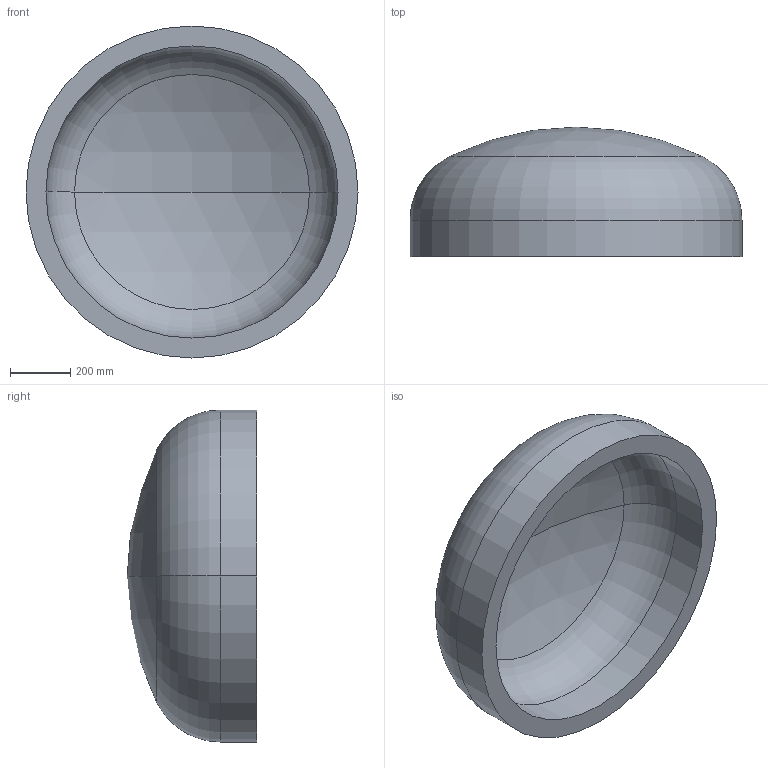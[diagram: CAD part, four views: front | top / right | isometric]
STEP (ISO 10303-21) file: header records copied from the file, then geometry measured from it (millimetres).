
FILE_DESCRIPTION (( 'STEP AP203' ), '1' );
FILE_NAME ('DIN 28013 Korbbogenform_-_Boden DIN 28013 - 1100 x 120 - I - s=66.step', '2016-07-01T09:11:49', ( '' ), ( '' ), 'SwSTEP 2.0', 'SolidWorks 2013', '' );
FILE_SCHEMA (( 'CONFIG_CONTROL_DESIGN' ));
Length unit declared in the file: millimetre
Products named in the file (1): DIN 28013 Korbbogenform_-_Boden DIN 28013 - 1100 x 120 - I - s=66
Bounding box: 1100 x 429.21 x 1100 mm (x, y, z)
Volume: 106258971.5 mm3; surface area: 3443486.2 mm2
Topology: 1 solids, 1 shells, 13 faces, 24 edges, 14 vertices
Faces by surface type: torus 4, cylinder 4, sphere 4, plane 1
Entity records: 407 total; most frequent: DIRECTION 72, CARTESIAN_POINT 52, ORIENTED_EDGE 48, AXIS2_PLACEMENT_3D 34, EDGE_CURVE 24, CIRCLE 20, EDGE_LOOP 14, VERTEX_POINT 14
